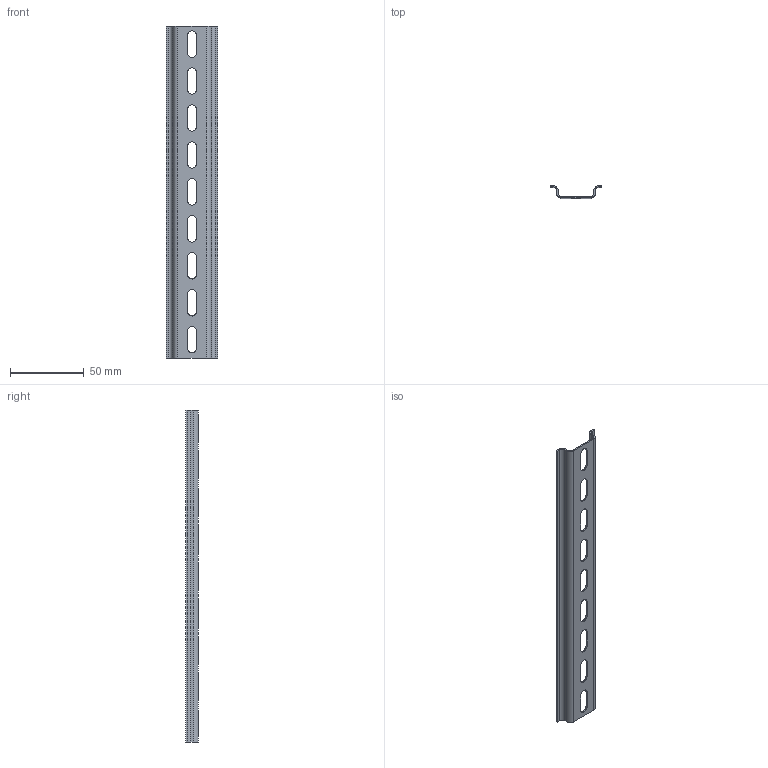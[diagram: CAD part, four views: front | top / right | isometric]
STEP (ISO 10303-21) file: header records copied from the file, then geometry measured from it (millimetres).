
FILE_DESCRIPTION (( 'STEP AP214' ), '1' );
FILE_NAME ('DIN-ðåéêà 225ìì õ 0,1 ìì.STEP', '2025-10-22T11:48:00', ( '' ), ( '' ), 'SwSTEP 2.0', 'SolidWorks 2018', '' );
FILE_SCHEMA (( 'AUTOMOTIVE_DESIGN' ));
Length unit declared in the file: millimetre
Products named in the file (1): DIN-ðåéêà 225ìì õ 0,1 ìì
Bounding box: 35.2 x 8.5 x 225 mm (x, y, z)
Volume: 9218.4 mm3; surface area: 19362.4 mm2
Topology: 1 solids, 1 shells, 83 faces, 211 edges, 130 vertices
Faces by surface type: plane 48, cylinder 35
Entity records: 2549 total; most frequent: DIRECTION 449, CARTESIAN_POINT 425, ORIENTED_EDGE 422, EDGE_CURVE 211, AXIS2_PLACEMENT_3D 154, VECTOR 141, LINE 141, VERTEX_POINT 130
